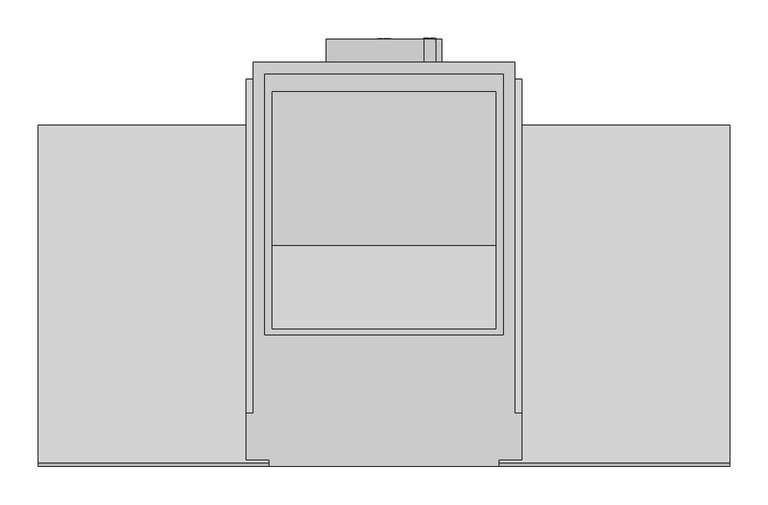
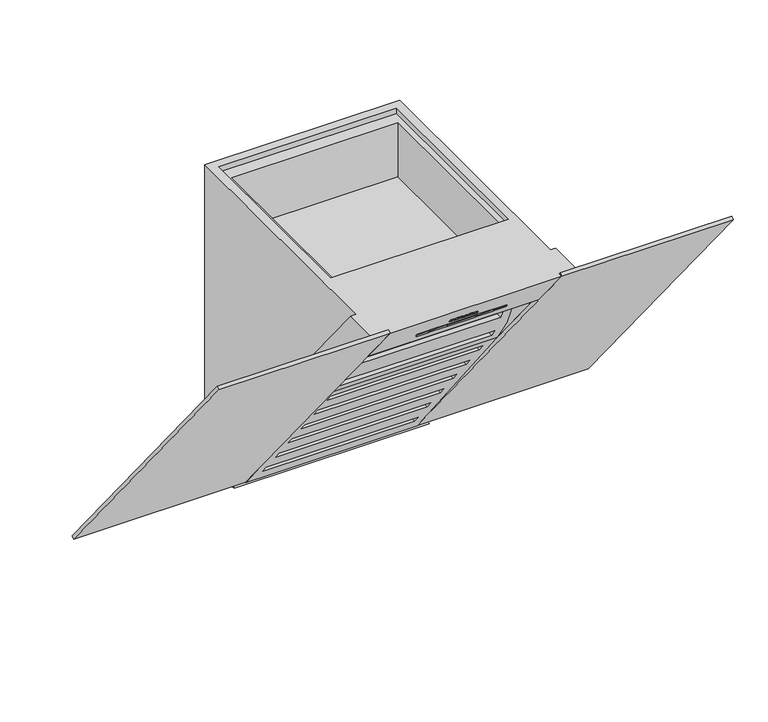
"""IFC4 building model written with IfcOpenShell, lengths in millimetres: proxy geometry, 09982550_IB_DA6096W_OBSW : 28609640_IB_9982550_DA6096W_OBSW."""

from ifc_helpers import new_model, si_unit, point, frame, frame_2d, origin, place, context, project, spatial, polyline, circle_curve, ellipse_curve, trimmed, segment, composite_curve, outline, extrude, faceted_brep, source, transform, mapped, element, save
from ifc_brep_helpers import plane_surface, cylinder_surface, revolved_surface, extruded_surface, advanced_brep


def specialty_equipment_932cc7be(model_context):
    return source(origin(), model_context, "Body", "SolidModel", [
        advanced_brep(
        [(16.0, -493.478577, 507.5288269), (16.0, -493.9870679, 508.1567609), (21.352, -493.9870679, 508.1567609), (12.04, -493.9870679, 508.1567609), (14.24, -492.2853855, 506.0553582), (21.216, -493.478577, 507.5288269), (18.8, -493.478577, 507.5288269), (16.896, -492.9147059, 506.8325042), (16.0, -494.631492, 508.9525583), (16.0, -495.1802593, 509.6302296), (17.368, -495.1802593, 509.6302296), (17.368, -494.631492, 508.9525583), (16.0, -492.701431, 508.1581473), (16.896, -492.13756, 507.4618245), (18.8, -492.701431, 508.1581473), (21.216, -492.701431, 508.1581473), (14.24, -491.5082396, 506.6846786), (12.04, -493.2099219, 508.7860813), (21.352, -493.2099219, 508.7860813), (16.0, -493.2099219, 508.7860813), (16.0, -493.854346, 509.5818787), (17.368, -493.854346, 509.5818787), (17.368, -494.4031134, 510.25955), (16.0, -494.4031134, 510.25955)],
        [
            (0, 1),
            (1, 2),
            (2, 3, ellipse_curve(frame((16.696, -493.9870679, 508.1567609), z_axis=(0.0, -0.7771459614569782, -0.6293203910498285), x_axis=(-1.0, 0.0, 0.0)), 4.656, 3.848)),
            (3, 4, circle_curve(frame((15.1360436, -494.158243, 508.3681446), z_axis=(0.0, -0.7771459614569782, -0.6293203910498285), x_axis=(0.0, 0.6293203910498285, -0.7771459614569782)), 3.1079688)),
            (4, 5, circle_curve(frame((16.6027936, -495.4873677, 510.0094768), z_axis=(0.0, -0.7771459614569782, -0.6293203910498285), x_axis=(0.0, 0.6293203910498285, -0.7771459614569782)), 5.6098607)),
            (5, 6),
            (6, 7, circle_curve(frame((17.2870588, -493.9467914, 508.1070235), z_axis=(0.0, 0.7771459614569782, 0.6293203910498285), x_axis=(0.0, 0.6293203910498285, -0.7771459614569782)), 1.6859795)),
            (7, 0, circle_curve(frame((16.896, -493.478577, 507.5288269), z_axis=(0.0, 0.7771459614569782, 0.6293203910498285), x_axis=(0.0, 0.6293203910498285, -0.7771459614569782)), 0.896)),
            (8, 9),
            (9, 10, circle_curve(frame((16.684, -495.1802593, 509.6302296), z_axis=(0.0, 0.7771459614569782, 0.6293203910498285), x_axis=(0.0, 0.6293203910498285, -0.7771459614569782)), 0.684)),
            (10, 11),
            (11, 8),
            (12, 13, circle_curve(frame((16.896, -492.701431, 508.1581473), z_axis=(0.0, -0.7771459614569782, -0.6293203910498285), x_axis=(0.0, 0.6293203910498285, -0.7771459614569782)), 0.896)),
            (13, 14, circle_curve(frame((17.2870588, -493.1696454, 508.7363439), z_axis=(0.0, -0.7771459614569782, -0.6293203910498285), x_axis=(0.0, 0.6293203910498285, -0.7771459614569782)), 1.6859795)),
            (14, 15),
            (15, 16, circle_curve(frame((16.6027936, -494.7102217, 510.6387972), z_axis=(0.0, 0.7771459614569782, 0.6293203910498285), x_axis=(0.0, 0.6293203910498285, -0.7771459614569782)), 5.6098607)),
            (16, 17, circle_curve(frame((15.1360436, -493.3810971, 508.997465), z_axis=(0.0, 0.7771459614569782, 0.6293203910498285), x_axis=(0.0, 0.6293203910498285, -0.7771459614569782)), 3.1079688)),
            (17, 18, ellipse_curve(frame((16.696, -493.2099219, 508.7860813), z_axis=(0.0, 0.7771459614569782, 0.6293203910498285), x_axis=(-1.0, 0.0, 0.0)), 4.656, 3.848)),
            (18, 19),
            (19, 12),
            (20, 21),
            (21, 22),
            (22, 23, circle_curve(frame((16.684, -494.4031134, 510.25955), z_axis=(0.0, -0.7771459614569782, -0.6293203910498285), x_axis=(0.0, 0.6293203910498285, -0.7771459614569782)), 0.684)),
            (23, 20),
            (0, 12),
            (19, 1),
            (18, 2),
            (5, 15),
            (14, 6),
            (17, 3),
            (13, 7),
            (16, 4),
            (8, 20),
            (23, 9),
            (22, 10),
            (21, 11),
        ],
        [
            plane_surface(frame((16.0, -493.9870679, 508.1567609), z_axis=(0.0, -0.7771459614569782, -0.6293203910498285), x_axis=(0.0, -0.6293203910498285, 0.7771459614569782))),
            plane_surface(frame((16.0, -493.2099219, 508.7860813), z_axis=(0.0, 0.7771459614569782, 0.6293203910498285), x_axis=(0.0, 0.6293203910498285, -0.7771459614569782))),
            plane_surface(frame((16.0, -493.478577, 507.5288269), z_axis=(1.0, 0.0, 0.0), x_axis=(0.0, 0.7771459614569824, 0.6293203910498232))),
            plane_surface(frame((16.0, -493.9870679, 508.1567609), z_axis=(0.0, 0.6293203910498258, -0.7771459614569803), x_axis=(0.0, 0.7771459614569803, 0.6293203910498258))),
            plane_surface(frame((21.216, -493.478577, 507.5288269), z_axis=(0.0, -0.6293203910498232, 0.7771459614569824), x_axis=(0.0, 0.7771459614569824, 0.6293203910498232))),
            extruded_surface(trimmed(ellipse_curve(frame((16.696, -492.432776, 509.4154017), z_axis=(0.0, -0.7771459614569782, -0.6293203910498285), x_axis=(-1.0, 0.0, 0.0)), 4.656, 3.848), [point((21.352, -492.432776, 509.4154017))], [point((12.04, -492.432776, 509.4154017))], True, "CARTESIAN"), (0.0, -0.7771458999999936, -0.6293204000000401), 0.9999999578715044),
            revolved_surface(polyline([(17.2870588, -492.10862410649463, 507.42609175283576), (17.2870588, -492.88577011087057, 506.79677132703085)]), (17.2870588, -493.1696454, 508.7363439), (0.0, 0.7771459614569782, 0.6293203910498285)),
            revolved_surface(polyline([(16.896, -492.1375599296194, 507.46182451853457), (16.896, -492.9147059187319, 506.8325041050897)]), (16.896, -492.701431, 508.1581473), (0.0, 0.7771459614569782, 0.6293203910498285)),
            cylinder_surface(frame((15.1360436, -493.3810971, 508.997465), z_axis=(0.0, -0.7771459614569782, -0.6293203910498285), x_axis=(0.0, 0.6293203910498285, -0.7771459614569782)), 3.1079688),
            cylinder_surface(frame((16.6027936, -494.7102217, 510.6387972), z_axis=(0.0, -0.7771459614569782, -0.6293203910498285), x_axis=(0.0, 0.6293203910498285, -0.7771459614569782)), 5.6098607),
            plane_surface(frame((16.0, -494.631492, 508.9525583), z_axis=(1.0, 0.0, 0.0), x_axis=(0.0, 0.7771459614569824, 0.6293203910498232))),
            revolved_surface(polyline([(16.684, -493.9726582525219, 509.7279821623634), (16.684, -494.74980418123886, 509.0986617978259)]), (16.684, -494.4031134, 510.25955), (0.0, 0.7771459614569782, 0.6293203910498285)),
            plane_surface(frame((17.368, -495.1802593, 509.6302296), z_axis=(-1.0, 0.0, 0.0), x_axis=(0.0, 0.7771459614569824, 0.6293203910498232))),
            plane_surface(frame((17.368, -494.631492, 508.9525583), z_axis=(0.0, -0.6293203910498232, 0.7771459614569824), x_axis=(0.0, 0.7771459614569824, 0.6293203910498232))),
        ],
        [
            (0, [[1, 2, 3, 4, 5, 6, 7, 8], [9, 10, 11, 12]]),
            (1, [[13, 14, 15, 16, 17, 18, 19, 20], [21, 22, 23, 24]]),
            (2, [[-1, 25, -20, 26]]),
            (3, [[-2, -26, -19, 27]]),
            (4, [[-6, 28, -15, 29]]),
            (5, [[-3, -27, -18, 30]]),
            (6, [[-7, -29, -14, 31]]),
            (7, [[-8, -31, -13, -25]]),
            (8, [[-4, -30, -17, 32]]),
            (9, [[-5, -32, -16, -28]]),
            (10, [[-9, 33, -24, 34]]),
            (11, [[-10, -34, -23, 35]]),
            (12, [[-11, -35, -22, 36]]),
            (13, [[-12, -36, -21, -33]]),
        ],
    ),
        advanced_brep(
        [(-0.696, -493.478577, 507.5288269), (-0.696, -493.9870679, 508.1567609), (4.656, -493.9870679, 508.1567609), (-4.656, -493.9870679, 508.1567609), (-2.456, -492.2853855, 506.0553582), (4.52, -493.478577, 507.5288269), (2.104, -493.478577, 507.5288269), (0.2, -492.9147059, 506.8325042), (-0.696, -494.631492, 508.9525583), (-0.696, -495.1802593, 509.6302296), (0.672, -495.1802593, 509.6302296), (0.672, -494.631492, 508.9525583), (-0.696, -492.701431, 508.1581473), (0.2, -492.13756, 507.4618245), (2.104, -492.701431, 508.1581473), (4.52, -492.701431, 508.1581473), (-2.456, -491.5082396, 506.6846786), (-4.656, -493.2099219, 508.7860813), (4.656, -493.2099219, 508.7860813), (-0.696, -493.2099219, 508.7860813), (-0.696, -493.854346, 509.5818787), (0.672, -493.854346, 509.5818787), (0.672, -494.4031134, 510.25955), (-0.696, -494.4031134, 510.25955)],
        [
            (0, 1),
            (1, 2),
            (2, 3, ellipse_curve(frame((0.0, -493.9870679, 508.1567609), z_axis=(0.0, -0.7771459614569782, -0.6293203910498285), x_axis=(-1.0, 0.0, 0.0)), 4.656, 3.848)),
            (3, 4, circle_curve(frame((-1.5599564, -494.158243, 508.3681446), z_axis=(0.0, -0.7771459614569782, -0.6293203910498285), x_axis=(0.0, 0.6293203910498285, -0.7771459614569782)), 3.1079688)),
            (4, 5, circle_curve(frame((-0.0932064, -495.4873677, 510.0094768), z_axis=(0.0, -0.7771459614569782, -0.6293203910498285), x_axis=(0.0, 0.6293203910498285, -0.7771459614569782)), 5.6098607)),
            (5, 6),
            (6, 7, circle_curve(frame((0.5910588, -493.9467914, 508.1070235), z_axis=(0.0, 0.7771459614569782, 0.6293203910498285), x_axis=(0.0, 0.6293203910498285, -0.7771459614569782)), 1.6859795)),
            (7, 0, circle_curve(frame((0.2, -493.478577, 507.5288269), z_axis=(0.0, 0.7771459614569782, 0.6293203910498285), x_axis=(0.0, 0.6293203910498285, -0.7771459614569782)), 0.896)),
            (8, 9),
            (9, 10, circle_curve(frame((-0.012, -495.1802593, 509.6302296), z_axis=(0.0, 0.7771459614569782, 0.6293203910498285), x_axis=(0.0, 0.6293203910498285, -0.7771459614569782)), 0.684)),
            (10, 11),
            (11, 8),
            (12, 13, circle_curve(frame((0.2, -492.701431, 508.1581473), z_axis=(0.0, -0.7771459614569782, -0.6293203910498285), x_axis=(0.0, 0.6293203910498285, -0.7771459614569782)), 0.896)),
            (13, 14, circle_curve(frame((0.5910588, -493.1696454, 508.7363439), z_axis=(0.0, -0.7771459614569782, -0.6293203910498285), x_axis=(0.0, 0.6293203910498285, -0.7771459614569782)), 1.6859795)),
            (14, 15),
            (15, 16, circle_curve(frame((-0.0932064, -494.7102217, 510.6387972), z_axis=(0.0, 0.7771459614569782, 0.6293203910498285), x_axis=(0.0, 0.6293203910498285, -0.7771459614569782)), 5.6098607)),
            (16, 17, circle_curve(frame((-1.5599564, -493.3810971, 508.997465), z_axis=(0.0, 0.7771459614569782, 0.6293203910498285), x_axis=(0.0, 0.6293203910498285, -0.7771459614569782)), 3.1079688)),
            (17, 18, ellipse_curve(frame((0.0, -493.2099219, 508.7860813), z_axis=(0.0, 0.7771459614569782, 0.6293203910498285), x_axis=(-1.0, 0.0, 0.0)), 4.656, 3.848)),
            (18, 19),
            (19, 12),
            (20, 21),
            (21, 22),
            (22, 23, circle_curve(frame((-0.012, -494.4031134, 510.25955), z_axis=(0.0, -0.7771459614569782, -0.6293203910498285), x_axis=(0.0, 0.6293203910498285, -0.7771459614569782)), 0.684)),
            (23, 20),
            (0, 12),
            (19, 1),
            (18, 2),
            (5, 15),
            (14, 6),
            (17, 3),
            (13, 7),
            (16, 4),
            (8, 20),
            (23, 9),
            (22, 10),
            (21, 11),
        ],
        [
            plane_surface(frame((-0.696, -493.9870679, 508.1567609), z_axis=(0.0, -0.7771459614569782, -0.6293203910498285), x_axis=(0.0, -0.6293203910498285, 0.7771459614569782))),
            plane_surface(frame((-0.696, -493.2099219, 508.7860813), z_axis=(0.0, 0.7771459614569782, 0.6293203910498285), x_axis=(0.0, 0.6293203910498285, -0.7771459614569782))),
            plane_surface(frame((-0.696, -493.478577, 507.5288269), z_axis=(1.0, 0.0, 0.0), x_axis=(0.0, 0.7771459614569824, 0.6293203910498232))),
            plane_surface(frame((-0.696, -493.9870679, 508.1567609), z_axis=(0.0, 0.6293203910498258, -0.7771459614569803), x_axis=(0.0, 0.7771459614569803, 0.6293203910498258))),
            plane_surface(frame((4.52, -493.478577, 507.5288269), z_axis=(0.0, -0.6293203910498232, 0.7771459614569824), x_axis=(0.0, 0.7771459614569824, 0.6293203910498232))),
            extruded_surface(trimmed(ellipse_curve(frame((0.0, -492.432776, 509.4154017), z_axis=(0.0, -0.7771459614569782, -0.6293203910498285), x_axis=(-1.0, 0.0, 0.0)), 4.656, 3.848), [point((4.656, -492.432776, 509.4154017))], [point((-4.656, -492.432776, 509.4154017))], True, "CARTESIAN"), (0.0, -0.7771458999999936, -0.6293204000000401), 0.9999999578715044),
            revolved_surface(polyline([(0.5910588, -492.10862410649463, 507.42609175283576), (0.5910588, -492.88577011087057, 506.79677132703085)]), (0.5910588, -493.1696454, 508.7363439), (0.0, 0.7771459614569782, 0.6293203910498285)),
            revolved_surface(polyline([(0.2, -492.1375599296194, 507.46182451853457), (0.2, -492.9147059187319, 506.8325041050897)]), (0.2, -492.701431, 508.1581473), (0.0, 0.7771459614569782, 0.6293203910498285)),
            cylinder_surface(frame((-1.5599564, -493.3810971, 508.997465), z_axis=(0.0, -0.7771459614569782, -0.6293203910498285), x_axis=(0.0, 0.6293203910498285, -0.7771459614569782)), 3.1079688),
            cylinder_surface(frame((-0.0932064, -494.7102217, 510.6387972), z_axis=(0.0, -0.7771459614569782, -0.6293203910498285), x_axis=(0.0, 0.6293203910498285, -0.7771459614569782)), 5.6098607),
            plane_surface(frame((-0.696, -494.631492, 508.9525583), z_axis=(1.0, 0.0, 0.0), x_axis=(0.0, 0.7771459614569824, 0.6293203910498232))),
            revolved_surface(polyline([(-0.012, -493.9726582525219, 509.7279821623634), (-0.012, -494.74980418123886, 509.0986617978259)]), (-0.012, -494.4031134, 510.25955), (0.0, 0.7771459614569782, 0.6293203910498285)),
            plane_surface(frame((0.672, -495.1802593, 509.6302296), z_axis=(-1.0, 0.0, 0.0), x_axis=(0.0, 0.7771459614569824, 0.6293203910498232))),
            plane_surface(frame((0.672, -494.631492, 508.9525583), z_axis=(0.0, -0.6293203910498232, 0.7771459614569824), x_axis=(0.0, 0.7771459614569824, 0.6293203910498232))),
        ],
        [
            (0, [[1, 2, 3, 4, 5, 6, 7, 8], [9, 10, 11, 12]]),
            (1, [[13, 14, 15, 16, 17, 18, 19, 20], [21, 22, 23, 24]]),
            (2, [[-1, 25, -20, 26]]),
            (3, [[-2, -26, -19, 27]]),
            (4, [[-6, 28, -15, 29]]),
            (5, [[-3, -27, -18, 30]]),
            (6, [[-7, -29, -14, 31]]),
            (7, [[-8, -31, -13, -25]]),
            (8, [[-4, -30, -17, 32]]),
            (9, [[-5, -32, -16, -28]]),
            (10, [[-9, 33, -24, 34]]),
            (11, [[-10, -34, -23, 35]]),
            (12, [[-11, -35, -22, 36]]),
            (13, [[-12, -36, -21, -33]]),
        ],
    ),
        extrude(outline(polyline([(0.0, 0.0), (1.4315307, 0.0), (1.4390415, -2.9920868), (0.0109086, -2.9993294), (0.0, 0.0)])), frame((-9.44, -497.0229095, 511.905713), z_axis=(0.0, 0.7771459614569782, 0.6293203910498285), x_axis=(0.4247202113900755, 0.5697392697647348, -0.7035694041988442)), (0.0, 0.0, 1.0), 1.0),
        extrude(outline(polyline([(0.4933908, 2.4141097), (1.7898157, 3.0223091), (2.1941494, 2.16044), (5.1636142, 3.5535222), (4.7592805, 4.4153913), (5.976037, 4.9862153), (8.6568709, -0.728194), (7.4401145, -1.299018), (7.0459742, -0.4588767), (2.7800845, -2.4601583), (0.4933908, 2.4141097)])), frame((-9.44, -497.0229095, 511.905713), z_axis=(0.0, 0.7771459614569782, 0.6293203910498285), x_axis=(0.4247202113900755, 0.5697392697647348, -0.7035694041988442)), (0.0, 0.0, 1.0), 1.0),
        extrude(outline(polyline([(0.0, 0.0), (0.96, 0.0), (0.96, 5.352), (0.0, 5.352), (0.0, 6.6960001), (6.488, 6.6960001), (6.488, 5.352), (5.504, 5.352), (5.504, -1.304), (0.0, -1.304), (0.0, 0.0)])), frame((5.104, -496.4993149, 511.2591276), z_axis=(0.0, 0.7771459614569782, 0.6293203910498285), x_axis=(1.0, 0.0, 0.0)), (0.0, 0.0, 1.0), 1.0),
        extrude(outline(polyline([(0.0, 0.0), (0.968, 0.0), (0.968, 5.352), (0.0, 5.352), (0.0, 6.6960001), (3.52, 6.6960001), (3.52, 5.352), (2.56, 5.352), (2.56, 1.9488753), (6.136, 6.6960001), (9.728, 1.8807777), (9.728, 5.352), (8.744, 5.352), (8.744, 6.6960001), (15.128, 6.6960001), (15.128, 5.352), (14.112, 5.352), (14.112, 0.0), (15.128, 0.0), (15.128, -1.304), (10.256, -1.304), (7.92, 1.696), (5.576, -1.304), (0.0, -1.304), (0.0, 0.0)])), frame((-27.36, -496.4993149, 511.2591276), z_axis=(0.0, 0.7771459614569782, 0.6293203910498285), x_axis=(1.0, 0.0, 0.0)), (0.0, 0.0, 1.0), 1.0),
        advanced_brep(
        [(73.4566713, -427.0, 463.8), (126.5433287, -427.0, 463.8), (129.116737, -427.0, 465.0), (70.883263, -427.0, 465.0), (100.0, -427.0, 463.8), (100.0, -427.0, 465.0)],
        [
            (0, 1, circle_curve(frame((100.0, -427.0, 463.8), z_axis=(0.0, 0.0, 1.0), x_axis=(1.0, 0.0, 0.0)), 26.5433287)),
            (1, 2),
            (2, 3, circle_curve(frame((100.0, -427.0, 465.0), z_axis=(0.0, 0.0, -1.0), x_axis=(1.0, 0.0, 0.0)), 29.116737)),
            (3, 0),
            (1, 0, circle_curve(frame((100.0, -427.0, 463.8), z_axis=(0.0, 0.0, 1.0), x_axis=(1.0, 0.0, 0.0)), 26.5433287)),
            (3, 2, circle_curve(frame((100.0, -427.0, 465.0), z_axis=(0.0, 0.0, -1.0), x_axis=(1.0, 0.0, 0.0)), 29.116737)),
            (0, 4),
            (4, 1),
            (2, 5),
            (5, 3),
        ],
        [
            revolved_surface(polyline([(129.116737, -427.0, 465.0), (126.5433287, -427.0, 463.8)]), (100.0, -427.0, 2703.4), (0.0, 0.0, -1.0)),
            plane_surface(frame((100.0, -427.0, 463.8), z_axis=(0.0, 0.0, -1.0), x_axis=(1.0, 0.0, 0.0))),
            plane_surface(frame((100.0, -427.0, 465.0), z_axis=(0.0, 0.0, 1.0), x_axis=(1.0, 0.0, 0.0))),
        ],
        [
            (0, [[1, 2, 3, 4]]),
            (0, [[-2, 5, -4, 6]]),
            (1, [[-1, 7, 8]]),
            (1, [[-5, -8, -7]]),
            (2, [[-3, 9, 10]]),
            (2, [[-6, -10, -9]]),
        ],
    ),
        advanced_brep(
        [(-126.5433287, -427.0, 463.8), (-73.4566713, -427.0, 463.8), (-70.883263, -427.0, 465.0), (-129.116737, -427.0, 465.0), (-100.0, -427.0, 463.8), (-100.0, -427.0, 465.0)],
        [
            (0, 1, circle_curve(frame((-100.0, -427.0, 463.8), z_axis=(0.0, 0.0, 1.0), x_axis=(1.0, 0.0, 0.0)), 26.5433287)),
            (1, 2),
            (2, 3, circle_curve(frame((-100.0, -427.0, 465.0), z_axis=(0.0, 0.0, -1.0), x_axis=(1.0, 0.0, 0.0)), 29.116737)),
            (3, 0),
            (1, 0, circle_curve(frame((-100.0, -427.0, 463.8), z_axis=(0.0, 0.0, 1.0), x_axis=(1.0, 0.0, 0.0)), 26.5433287)),
            (3, 2, circle_curve(frame((-100.0, -427.0, 465.0), z_axis=(0.0, 0.0, -1.0), x_axis=(1.0, 0.0, 0.0)), 29.116737)),
            (0, 4),
            (4, 1),
            (2, 5),
            (5, 3),
        ],
        [
            revolved_surface(polyline([(-70.883263, -427.0, 465.0), (-73.4566713, -427.0, 463.8)]), (-100.0, -427.0, 2703.4), (0.0, 0.0, -1.0)),
            plane_surface(frame((-100.0, -427.0, 463.8), z_axis=(0.0, 0.0, -1.0), x_axis=(1.0, 0.0, 0.0))),
            plane_surface(frame((-100.0, -427.0, 465.0), z_axis=(0.0, 0.0, 1.0), x_axis=(1.0, 0.0, 0.0))),
        ],
        [
            (0, [[1, 2, 3, 4]]),
            (0, [[-2, 5, -4, 6]]),
            (1, [[-1, 7, 8]]),
            (1, [[-5, -8, -7]]),
            (2, [[-3, 9, 10]]),
            (2, [[-6, -10, -9]]),
        ],
    ),
        extrude(outline(composite_curve([segment(polyline([(-478.0869378, 489.4942268), (-478.9654369, 488.7828323)]), True, "CONTINUOUS"), segment(trimmed(circle_curve(frame_2d((-455.391419, 513.0197339)), 33.8106746), [point((-478.9654369, 488.7828323))], [point((-484.0, 495.0))], False, "CARTESIAN"), True, "CONTINUOUS"), segment(polyline([(-484.0, 495.0), (-483.1215009, 495.7113945), (-478.0869378, 489.4942268)]), True, "CONTINUOUS")], self_intersect=False)), frame((-78.0, 0.0, 0.0), z_axis=(1.0, 0.0, 0.0), x_axis=(0.0, 1.0, 0.0)), (0.0, 0.0, 1.0), 21.0),
        extrude(outline(composite_curve([segment(polyline([(-483.1215009, 495.7113945), (-478.0869378, 489.4942268), (-478.9654369, 488.7828323)]), True, "CONTINUOUS"), segment(trimmed(circle_curve(frame_2d((-455.391419, 513.0197339)), 33.8106746), [point((-478.9654369, 488.7828323))], [point((-484.0, 495.0))], False, "CARTESIAN"), True, "CONTINUOUS"), segment(polyline([(-484.0, 495.0), (-483.1215009, 495.7113945)]), True, "CONTINUOUS")], self_intersect=False)), frame((-56.0, 0.0, 0.0), z_axis=(1.0, 0.0, 0.0), x_axis=(0.0, 1.0, 0.0)), (0.0, 0.0, 1.0), 30.0),
        extrude(outline(composite_curve([segment(polyline([(-483.1215009, 495.7113945), (-478.0869378, 489.4942268), (-478.9654369, 488.7828323)]), True, "CONTINUOUS"), segment(trimmed(circle_curve(frame_2d((-455.391419, 513.0197339)), 33.8106746), [point((-478.9654369, 488.7828323))], [point((-484.0, 495.0))], False, "CARTESIAN"), True, "CONTINUOUS"), segment(polyline([(-484.0, 495.0), (-483.1215009, 495.7113945)]), True, "CONTINUOUS")], self_intersect=False)), frame((-25.0, 0.0, 0.0), z_axis=(1.0, 0.0, 0.0), x_axis=(0.0, 1.0, 0.0)), (0.0, 0.0, 1.0), 50.0),
        extrude(outline(composite_curve([segment(polyline([(-483.1215009, 495.7113945), (-478.0869378, 489.4942268), (-478.9654369, 488.7828323)]), True, "CONTINUOUS"), segment(trimmed(circle_curve(frame_2d((-455.391419, 513.0197339)), 33.8106746), [point((-478.9654369, 488.7828323))], [point((-484.0, 495.0))], False, "CARTESIAN"), True, "CONTINUOUS"), segment(polyline([(-484.0, 495.0), (-483.1215009, 495.7113945)]), True, "CONTINUOUS")], self_intersect=False)), frame((26.0, 0.0, 0.0), z_axis=(1.0, 0.0, 0.0), x_axis=(0.0, 1.0, 0.0)), (0.0, 0.0, 1.0), 30.0),
        extrude(outline(composite_curve([segment(polyline([(-483.1215009, 495.7113945), (-478.0869378, 489.4942268), (-478.9654369, 488.7828323)]), True, "CONTINUOUS"), segment(trimmed(circle_curve(frame_2d((-455.391419, 513.0197339)), 33.8106746), [point((-478.9654369, 488.7828323))], [point((-484.0, 495.0))], False, "CARTESIAN"), True, "CONTINUOUS"), segment(polyline([(-484.0, 495.0), (-483.1215009, 495.7113945)]), True, "CONTINUOUS")], self_intersect=False)), frame((57.0, 0.0, 0.0), z_axis=(1.0, 0.0, 0.0), x_axis=(0.0, 1.0, 0.0)), (0.0, 0.0, 1.0), 21.0),
        extrude(outline(composite_curve([segment(trimmed(circle_curve(frame_2d((347.0, 0.0)), 75.0), [point((347.0, -75.0))], [point((347.0, 75.0))], False, "CARTESIAN"), True, "CONTINUOUS"), segment(trimmed(circle_curve(frame_2d((347.0, 0.0)), 75.0), [point((347.0, 75.0))], [point((347.0, -75.0))], False, "CARTESIAN"), True, "CONTINUOUS")], self_intersect=False)), frame((0.0, 0.0, 0.0), z_axis=(0.0, 1.0, 0.0), x_axis=(0.0, 0.0, 1.0)), (0.0, 0.0, 1.0), 30.0),
        extrude(outline(polyline([(-86.8826332, 6.9701095), (-525.0, 548.0), (-520.2594096, 551.8388544), (-81.8736039, 10.4774695), (-86.8826332, 6.9701095)])), frame((-449.0, 0.0, 0.0), z_axis=(1.0, 0.0, 0.0), x_axis=(0.0, 1.0, 0.0)), (0.0, 0.0, 1.0), 299.0),
        extrude(outline(polyline([(-86.8826332, 6.9701095), (-525.0, 548.0), (-520.2594096, 551.8388544), (-81.8736039, 10.4774695), (-86.8826332, 6.9701095)])), frame((150.0, 0.0, 0.0), z_axis=(1.0, 0.0, 0.0), x_axis=(0.0, 1.0, 0.0)), (0.0, 0.0, 1.0), 299.0),
        extrude(outline(polyline([(-12.3, 0.0), (-52.4107367, 0.0), (-88.7255648, 4.4589002), (-77.9557582, 12.0), (-12.3, 12.0), (-12.3, 0.0)])), frame((-170.0, 0.0, 0.0), z_axis=(1.0, 0.0, 0.0), x_axis=(0.0, 1.0, 0.0)), (0.0, 0.0, 1.0), 340.0),
        faceted_brep([(170.0, 0.0, 548.0), (170.0, -456.0, 548.0), (170.0, -21.9557582, 12.0), (170.0, 0.0, 12.0), (-170.0, 0.0, 548.0), (-170.0, 0.0, 12.0), (-170.0, -21.9557582, 12.0), (-170.0, -456.0, 548.0), (-179.0, -456.0, 548.0), (-179.0, -517.0, 548.0), (-150.0, -517.0, 548.0), (-150.0, -525.0, 548.0), (150.0, -525.0, 548.0), (150.0, -517.0, 548.0), (179.0, -517.0, 548.0), (179.0, -456.0, 548.0), (-155.0, -15.75, 548.0), (155.0, -15.75, 548.0), (155.0, -353.75, 548.0), (-155.0, -353.75, 548.0), (179.0, -21.9557582, 12.0), (179.0, -82.9557582, 12.0), (150.0, -82.9557582, 12.0), (150.0, -21.9557582, 12.0), (-150.0, -21.9557582, 12.0), (-150.0, -82.9557582, 12.0), (-179.0, -82.9557582, 12.0), (-179.0, -21.9557582, 12.0), (150.0, -449.7879252, 465.0), (-150.0, -449.7879252, 465.0), (150.0, -457.7879252, 465.0), (-150.0, -457.7879252, 465.0), (-150.0, -378.7349578, 465.0), (150.0, -378.7349578, 465.0), (150.0, -332.7938563, 395.8530835), (-150.0, -332.7938563, 395.8530835), (155.0, -15.75, 538.0), (-155.0, -15.75, 538.0), (-155.0, -353.75, 538.0), (155.0, -353.75, 538.0), (145.0, -38.0, 538.0), (145.0, -346.0, 538.0), (-145.0, -346.0, 538.0), (-145.0, -38.0, 538.0), (145.0, -38.0, 438.0), (145.0, -238.0, 438.0), (-145.0, -38.0, 438.0), (-145.0, -238.0, 438.0)], [[[0, 1, 2, 3]], [[4, 5, 6, 7]], [[0, 3, 5, 4]], [[1, 0, 4, 7, 8, 9, 10, 11, 12, 13, 14, 15], [16, 17, 18, 19]], [[3, 2, 20, 21, 22, 23, 24, 25, 26, 27, 6, 5]], [[14, 21, 20, 15]], [[9, 8, 27, 26]], [[15, 20, 2, 1]], [[27, 8, 7, 6]], [[21, 14, 13, 28, 22]], [[9, 26, 25, 29, 10]], [[13, 12, 30, 28]], [[29, 31, 11, 10]], [[30, 12, 11, 31]], [[28, 30, 31, 29, 32, 33]], [[34, 23, 22, 28, 33]], [[35, 32, 29, 25, 24]], [[23, 34, 35, 24]], [[36, 37, 38, 39], [40, 41, 42, 43]], [[37, 36, 17, 16]], [[38, 37, 16, 19]], [[39, 38, 19, 18]], [[36, 39, 18, 17]], [[34, 33, 32, 35]], [[44, 45, 41, 40]], [[46, 43, 42, 47]], [[45, 44, 46, 47]], [[44, 40, 43, 46]], [[41, 45, 47, 42]]]),
        extrude(outline(polyline([(342.0, 8.547125), (352.045631, 4.5372113), (352.045631, 3.4679009), (342.0, -0.5420128), (342.0, 0.7848149), (345.1392597, 1.9350593), (345.1392597, 6.0725055), (342.0, 7.2202973), (342.0, 8.547125)]), holes=[polyline([(346.3949636, 5.6114267), (346.3949636, 2.3936855), (348.864678, 3.2986752), (350.7899271, 4.0025561), (349.0805021, 4.6279555), (346.3949636, 5.6114267)])]), frame((0.0, 30.0, 0.0), z_axis=(0.0, 1.0, 0.0), x_axis=(0.0, 0.0, 1.0)), (0.0, 0.0, 1.0), 1.0),
        extrude(outline(polyline([(342.0, -1.8835558), (352.045631, -1.8835558), (352.045631, -3.1392597), (343.2557039, -3.1392597), (343.2557039, -8.1620752), (342.0, -8.1620752), (342.0, -1.8835558)])), frame((0.0, 30.0, 0.0), z_axis=(0.0, 1.0, 0.0), x_axis=(0.0, 0.0, 1.0)), (0.0, 0.0, 1.0), 1.0),
        extrude(outline(polyline([(505.0, 67.3772603), (515.045631, 67.3772603), (515.045631, 60.156963), (513.7899271, 60.156963), (513.7899271, 66.1215564), (510.8076304, 66.1215564), (510.8076304, 60.470889), (509.5519266, 60.470889), (509.5519266, 66.1215564), (506.2557039, 66.1215564), (506.2557039, 60.0), (505.0, 60.0), (505.0, 67.3772603)])), frame((0.0, 30.0, 0.0), z_axis=(0.0, 1.0, 0.0), x_axis=(0.0, 0.0, 1.0)), (0.0, 0.0, 1.0), 1.0),
        extrude(outline(polyline([(505.0, 58.1164442), (515.045631, 58.1164442), (515.045631, 56.8607403), (506.2557039, 56.8607403), (506.2557039, 51.8379248), (505.0, 51.8379248), (505.0, 58.1164442)])), frame((0.0, 30.0, 0.0), z_axis=(0.0, 1.0, 0.0), x_axis=(0.0, 0.0, 1.0)), (0.0, 0.0, 1.0), 1.0),
        extrude(outline(composite_curve([segment(trimmed(circle_curve(frame_2d((510.0, 60.0)), 7.5), [point((510.0, 52.5))], [point((510.0, 67.5))], False, "CARTESIAN"), True, "CONTINUOUS"), segment(trimmed(circle_curve(frame_2d((510.0, 60.0)), 7.5), [point((510.0, 67.5))], [point((510.0, 52.5))], False, "CARTESIAN"), True, "CONTINUOUS")], self_intersect=False)), frame((0.0, 0.0, 0.0), z_axis=(0.0, 1.0, 0.0), x_axis=(0.0, 0.0, 1.0)), (0.0, 0.0, 1.0), 30.0),
        advanced_brep(
        [(150.0, -88.0, 7.4), (150.0, -80.9079032, 12.9409533), (150.0, -323.3385612, 323.2380453), (150.0, -384.1644463, 465.0), (150.0, -393.2602152, 465.0), (150.0, -330.430658, 317.697092), (-150.0, -88.0, 7.4), (-150.0, -330.430658, 317.697092), (-150.0, -393.2602152, 465.0), (-150.0, -384.1644463, 465.0), (-150.0, -323.3385612, 323.2380453), (-150.0, -80.9079032, 12.9409533), (132.5, -120.5014821, 49.0), (132.5, -109.5634833, 35.0), (-132.5, -109.5634833, 35.0), (-132.5, -120.5014821, 49.0), (132.5, -159.5657634, 99.0), (132.5, -148.6277646, 85.0), (-132.5, -148.6277646, 85.0), (-132.5, -159.5657634, 99.0), (132.5, -198.6300447, 149.0), (132.5, -187.6920459, 135.0), (-132.5, -187.6920459, 135.0), (-132.5, -198.6300447, 149.0), (132.5, -237.694326, 199.0), (132.5, -226.7563273, 185.0), (-132.5, -226.7563273, 185.0), (-132.5, -237.694326, 199.0), (132.5, -276.7586074, 249.0), (132.5, -265.8206086, 235.0), (-132.5, -265.8206086, 235.0), (-132.5, -276.7586074, 249.0), (132.5, -315.8228887, 299.0), (132.5, -304.8848899, 285.0), (-132.5, -304.8848899, 285.0), (-132.5, -315.8228887, 299.0), (132.5, -98.1423194, 35.0), (132.5, -109.0803181, 49.0), (-132.5, -109.0803181, 49.0), (-132.5, -98.1423194, 35.0), (132.5, -137.2066007, 85.0), (132.5, -148.1445995, 99.0), (-132.5, -148.1445995, 99.0), (-132.5, -137.2066007, 85.0), (132.5, -176.270882, 135.0), (132.5, -187.2088808, 149.0), (-132.5, -187.2088808, 149.0), (-132.5, -176.270882, 135.0), (132.5, -215.3351633, 185.0), (132.5, -226.2731621, 199.0), (-132.5, -226.2731621, 199.0), (-132.5, -215.3351633, 185.0), (132.5, -254.3994447, 235.0), (132.5, -265.3374434, 249.0), (-132.5, -265.3374434, 249.0), (-132.5, -254.3994447, 235.0), (132.5, -293.463726, 285.0), (132.5, -304.4017248, 299.0), (-132.5, -304.4017248, 299.0), (-132.5, -293.463726, 285.0), (132.5, -332.077485, 335.0), (132.5, -341.3897298, 349.0), (-132.5, -341.3897298, 349.0), (-132.5, -332.077485, 335.0), (132.5, -360.6649717, 385.0), (132.5, -366.5657538, 399.0), (-132.5, -366.5657538, 399.0), (-132.5, -360.6649717, 385.0), (132.5, -378.1451024, 435.0), (132.5, -381.3476012, 449.0), (-132.5, -381.3476012, 449.0), (-132.5, -378.1451024, 435.0), (132.5, -351.9472268, 349.0), (132.5, -343.0163695, 335.0), (-132.5, -343.0163695, 335.0), (-132.5, -351.9472268, 349.0), (132.5, -376.2118104, 399.0), (132.5, -370.5104896, 385.0), (-132.5, -370.5104896, 385.0), (-132.5, -376.2118104, 399.0), (132.5, -390.5272537, 449.0), (132.5, -387.4219932, 435.0), (-132.5, -387.4219932, 435.0), (-132.5, -390.5272537, 449.0)],
        [
            (0, 1),
            (1, 2),
            (2, 3, circle_curve(frame((150.0, -85.0458504, 509.4127152), z_axis=(-1.0, 0.0, 0.0), x_axis=(0.0, 1.0, 0.0)), 302.3977905)),
            (3, 4),
            (4, 5, circle_curve(frame((150.0, -85.0458504, 509.4127152), z_axis=(1.0, 0.0, 0.0), x_axis=(0.0, 1.0, 0.0)), 311.3977905)),
            (5, 0),
            (6, 7),
            (7, 8, circle_curve(frame((-150.0, -85.0458504, 509.4127152), z_axis=(-1.0, 0.0, 0.0), x_axis=(0.0, 1.0, 0.0)), 311.3977905)),
            (8, 9),
            (9, 10, circle_curve(frame((-150.0, -85.0458504, 509.4127152), z_axis=(1.0, 0.0, 0.0), x_axis=(0.0, 1.0, 0.0)), 302.3977905)),
            (10, 11),
            (11, 6),
            (5, 7),
            (6, 0),
            (12, 13),
            (13, 14),
            (14, 15),
            (15, 12),
            (16, 17),
            (17, 18),
            (18, 19),
            (19, 16),
            (20, 21),
            (21, 22),
            (22, 23),
            (23, 20),
            (24, 25),
            (25, 26),
            (26, 27),
            (27, 24),
            (28, 29),
            (29, 30),
            (30, 31),
            (31, 28),
            (32, 33),
            (33, 34),
            (34, 35),
            (35, 32),
            (11, 1),
            (10, 2),
            (36, 37),
            (37, 38),
            (38, 39),
            (39, 36),
            (40, 41),
            (41, 42),
            (42, 43),
            (43, 40),
            (44, 45),
            (45, 46),
            (46, 47),
            (47, 44),
            (48, 49),
            (49, 50),
            (50, 51),
            (51, 48),
            (52, 53),
            (53, 54),
            (54, 55),
            (55, 52),
            (56, 57),
            (57, 58),
            (58, 59),
            (59, 56),
            (9, 3),
            (60, 61, circle_curve(frame((132.5, -85.0458504, 509.4127152), z_axis=(-1.0, 0.0, 0.0), x_axis=(0.0, 1.0, 0.0)), 302.3977905)),
            (61, 62),
            (62, 63, circle_curve(frame((-132.5, -85.0458504, 509.4127152), z_axis=(1.0, 0.0, 0.0), x_axis=(0.0, 1.0, 0.0)), 302.3977905)),
            (63, 60),
            (64, 65, circle_curve(frame((132.5, -85.0458504, 509.4127152), z_axis=(-1.0, 0.0, 0.0), x_axis=(0.0, 1.0, 0.0)), 302.3977905)),
            (65, 66),
            (66, 67, circle_curve(frame((-132.5, -85.0458504, 509.4127152), z_axis=(1.0, 0.0, 0.0), x_axis=(0.0, 1.0, 0.0)), 302.3977905)),
            (67, 64),
            (68, 69, circle_curve(frame((132.5, -85.0458504, 509.4127152), z_axis=(-1.0, 0.0, 0.0), x_axis=(0.0, 1.0, 0.0)), 302.3977905)),
            (69, 70),
            (70, 71, circle_curve(frame((-132.5, -85.0458504, 509.4127152), z_axis=(1.0, 0.0, 0.0), x_axis=(0.0, 1.0, 0.0)), 302.3977905)),
            (71, 68),
            (4, 8),
            (72, 73, circle_curve(frame((132.5, -85.0458504, 509.4127152), z_axis=(1.0, 0.0, 0.0), x_axis=(0.0, 1.0, 0.0)), 311.3977905)),
            (73, 74),
            (74, 75, circle_curve(frame((-132.5, -85.0458504, 509.4127152), z_axis=(-1.0, 0.0, 0.0), x_axis=(0.0, 1.0, 0.0)), 311.3977905)),
            (75, 72),
            (76, 77, circle_curve(frame((132.5, -85.0458504, 509.4127152), z_axis=(1.0, 0.0, 0.0), x_axis=(0.0, 1.0, 0.0)), 311.3977905)),
            (77, 78),
            (78, 79, circle_curve(frame((-132.5, -85.0458504, 509.4127152), z_axis=(-1.0, 0.0, 0.0), x_axis=(0.0, 1.0, 0.0)), 311.3977905)),
            (79, 76),
            (80, 81, circle_curve(frame((132.5, -85.0458504, 509.4127152), z_axis=(1.0, 0.0, 0.0), x_axis=(0.0, 1.0, 0.0)), 311.3977905)),
            (81, 82),
            (82, 83, circle_curve(frame((-132.5, -85.0458504, 509.4127152), z_axis=(-1.0, 0.0, 0.0), x_axis=(0.0, 1.0, 0.0)), 311.3977905)),
            (83, 80),
            (12, 37),
            (36, 13),
            (16, 41),
            (40, 17),
            (20, 45),
            (44, 21),
            (24, 49),
            (48, 25),
            (28, 53),
            (52, 29),
            (32, 57),
            (56, 33),
            (72, 61),
            (60, 73),
            (76, 65),
            (64, 77),
            (80, 69),
            (68, 81),
            (14, 39),
            (38, 15),
            (18, 43),
            (42, 19),
            (22, 47),
            (46, 23),
            (26, 51),
            (50, 27),
            (30, 55),
            (54, 31),
            (34, 59),
            (58, 35),
            (74, 63),
            (62, 75),
            (78, 67),
            (66, 79),
            (82, 71),
            (70, 83),
        ],
        [
            plane_surface(frame((150.0, -88.0, 7.4), z_axis=(1.0, 0.0, 0.0), x_axis=(0.0, 0.7880107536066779, 0.6156614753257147))),
            plane_surface(frame((-150.0, -88.0, 7.4), z_axis=(-1.0, 0.0, 0.0), x_axis=(0.0, -0.7880107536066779, -0.6156614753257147))),
            plane_surface(frame((150.0, -330.430658, 317.697092), z_axis=(0.0, -0.7880107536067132, -0.6156614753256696), x_axis=(-1.0, 0.0, 0.0))),
            plane_surface(frame((150.0, -88.0, 7.4), z_axis=(0.0, 0.6156614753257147, -0.7880107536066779), x_axis=(-1.0, 0.0, 0.0))),
            plane_surface(frame((150.0, -80.9079032, 12.9409533), z_axis=(0.0, 0.7880107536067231, 0.6156614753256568), x_axis=(-1.0, 0.0, 0.0))),
            revolved_surface(polyline([(-150.0, 217.35194009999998, 509.4127152), (150.0, 217.35194009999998, 509.4127152)]), (-150.0, -85.0458504, 509.4127152), (-1.0, 0.0, 0.0)),
            cylinder_surface(frame((-150.0, -85.0458504, 509.4127152), z_axis=(1.0, 0.0, 0.0), x_axis=(0.0, 1.0, 0.0)), 311.3977905),
            plane_surface(frame((132.5, -525.0, 49.0), z_axis=(-1.0, 0.0, 0.0), x_axis=(0.0, 0.0, -1.0))),
            plane_surface(frame((-132.5, -525.0, 49.0), z_axis=(1.0, 0.0, 0.0), x_axis=(0.0, 0.0, 1.0))),
            plane_surface(frame((132.5, -525.0, 35.0), z_axis=(0.0, 0.0, 1.0), x_axis=(-1.0, 0.0, 0.0))),
            plane_surface(frame((132.5, -80.0, 49.0), z_axis=(0.0, 0.0, -1.0), x_axis=(-1.0, 0.0, 0.0))),
            plane_surface(frame((132.5, -525.0, 85.0), z_axis=(0.0, 0.0, 1.0), x_axis=(-1.0, 0.0, 0.0))),
            plane_surface(frame((132.5, -80.0, 99.0), z_axis=(0.0, 0.0, -1.0), x_axis=(-1.0, 0.0, 0.0))),
            plane_surface(frame((132.5, -525.0, 135.0), z_axis=(0.0, 0.0, 1.0), x_axis=(-1.0, 0.0, 0.0))),
            plane_surface(frame((132.5, -80.0, 149.0), z_axis=(0.0, 0.0, -1.0), x_axis=(-1.0, 0.0, 0.0))),
            plane_surface(frame((132.5, -525.0, 185.0), z_axis=(0.0, 0.0, 1.0), x_axis=(-1.0, 0.0, 0.0))),
            plane_surface(frame((132.5, -80.0, 199.0), z_axis=(0.0, 0.0, -1.0), x_axis=(-1.0, 0.0, 0.0))),
            plane_surface(frame((132.5, -525.0, 235.0), z_axis=(0.0, 0.0, 1.0), x_axis=(-1.0, 0.0, 0.0))),
            plane_surface(frame((132.5, -80.0, 249.0), z_axis=(0.0, 0.0, -1.0), x_axis=(-1.0, 0.0, 0.0))),
            plane_surface(frame((132.5, -525.0, 285.0), z_axis=(0.0, 0.0, 1.0), x_axis=(-1.0, 0.0, 0.0))),
            plane_surface(frame((132.5, -80.0, 299.0), z_axis=(0.0, 0.0, -1.0), x_axis=(-1.0, 0.0, 0.0))),
            plane_surface(frame((132.5, -525.0, 335.0), z_axis=(0.0, 0.0, 1.0), x_axis=(-1.0, 0.0, 0.0))),
            plane_surface(frame((132.5, -80.0, 349.0), z_axis=(0.0, 0.0, -1.0), x_axis=(-1.0, 0.0, 0.0))),
            plane_surface(frame((132.5, -525.0, 385.0), z_axis=(0.0, 0.0, 1.0), x_axis=(-1.0, 0.0, 0.0))),
            plane_surface(frame((132.5, -80.0, 399.0), z_axis=(0.0, 0.0, -1.0), x_axis=(-1.0, 0.0, 0.0))),
            plane_surface(frame((132.5, -525.0, 435.0), z_axis=(0.0, 0.0, 1.0), x_axis=(-1.0, 0.0, 0.0))),
            plane_surface(frame((132.5, -80.0, 449.0), z_axis=(0.0, 0.0, -1.0), x_axis=(-1.0, 0.0, 0.0))),
            plane_surface(frame((150.0, -384.1644463, 465.0), z_axis=(0.0, 0.0, 1.0), x_axis=(-1.0, 0.0, 0.0))),
        ],
        [
            (0, [[1, 2, 3, 4, 5, 6]]),
            (1, [[7, 8, 9, 10, 11, 12]]),
            (2, [[-6, 13, -7, 14], [15, 16, 17, 18], [19, 20, 21, 22], [23, 24, 25, 26], [27, 28, 29, 30], [31, 32, 33, 34], [35, 36, 37, 38]]),
            (3, [[-1, -14, -12, 39]]),
            (4, [[-2, -39, -11, 40], [41, 42, 43, 44], [45, 46, 47, 48], [49, 50, 51, 52], [53, 54, 55, 56], [57, 58, 59, 60], [61, 62, 63, 64]]),
            (5, [[-3, -40, -10, 65], [66, 67, 68, 69], [70, 71, 72, 73], [74, 75, 76, 77]]),
            (6, [[-5, 78, -8, -13], [79, 80, 81, 82], [83, 84, 85, 86], [87, 88, 89, 90]]),
            (7, [[91, -41, 92, -15]]),
            (7, [[93, -45, 94, -19]]),
            (7, [[95, -49, 96, -23]]),
            (7, [[97, -53, 98, -27]]),
            (7, [[99, -57, 100, -31]]),
            (7, [[101, -61, 102, -35]]),
            (7, [[103, -66, 104, -79]]),
            (7, [[105, -70, 106, -83]]),
            (7, [[107, -74, 108, -87]]),
            (8, [[109, -43, 110, -17]]),
            (8, [[111, -47, 112, -21]]),
            (8, [[113, -51, 114, -25]]),
            (8, [[115, -55, 116, -29]]),
            (8, [[117, -59, 118, -33]]),
            (8, [[119, -63, 120, -37]]),
            (8, [[121, -68, 122, -81]]),
            (8, [[123, -72, 124, -85]]),
            (8, [[125, -76, 126, -89]]),
            (9, [[-92, -44, -109, -16]]),
            (10, [[-91, -18, -110, -42]]),
            (11, [[-94, -48, -111, -20]]),
            (12, [[-93, -22, -112, -46]]),
            (13, [[-96, -52, -113, -24]]),
            (14, [[-95, -26, -114, -50]]),
            (15, [[-98, -56, -115, -28]]),
            (16, [[-97, -30, -116, -54]]),
            (17, [[-100, -60, -117, -32]]),
            (18, [[-99, -34, -118, -58]]),
            (19, [[-102, -64, -119, -36]]),
            (20, [[-101, -38, -120, -62]]),
            (21, [[-104, -69, -121, -80]]),
            (22, [[-103, -82, -122, -67]]),
            (23, [[-106, -73, -123, -84]]),
            (24, [[-105, -86, -124, -71]]),
            (25, [[-108, -77, -125, -88]]),
            (26, [[-107, -90, -126, -75]]),
            (27, [[-4, -65, -9, -78]]),
        ],
    ),
    ])


if __name__ == "__main__":
    model = new_model("IFC4")
    model_context = context("Model", 3, world=origin())
    ifc_project = project(units=[si_unit("LENGTHUNIT", "METRE", prefix="MILLI")], contexts=[model_context])
    site = spatial("IfcSite", under=ifc_project)
    building = spatial("IfcBuilding", under=site)
    placement = place(None, origin())
    specialty_equipment_shape = specialty_equipment_932cc7be(model_context)
    element("IfcBuildingElementProxy", 1, Name="09982550_IB_DA6096W_OBSW : 28609640_IB_9982550_DA6096W_OBSW", ObjectType="09982550_IB_DA6096W_OBSW : 28609640_IB_9982550_DA6096W_OBSW", at=placement, inside=building, context=model_context, shape_type="MappedRepresentation", body=[
        mapped(specialty_equipment_shape, transform((0.0, 0.0, 0.0), x_axis=(1.0, 0.0, 0.0), y_axis=(0.0, 1.0, 0.0), z_axis=(0.0, 0.0, 1.0))),
    ])
    save(model, "model.ifc")
